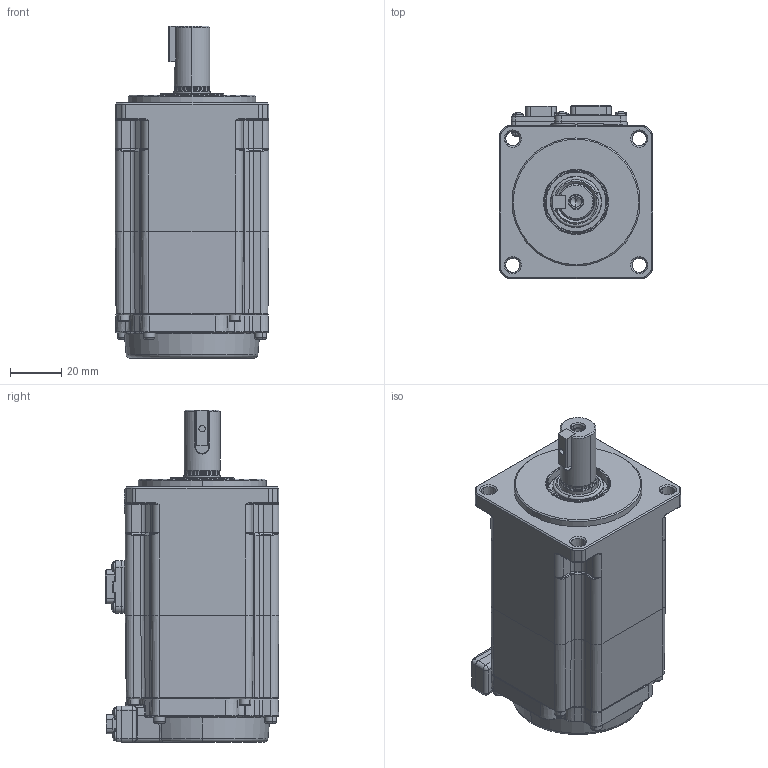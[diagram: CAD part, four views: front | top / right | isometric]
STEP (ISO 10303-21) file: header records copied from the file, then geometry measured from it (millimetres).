
FILE_DESCRIPTION (( 'STEP AP214' ), '1' );
FILE_NAME ('60-200W衄蚐猾衄秶雄ん(RSK1-H060A02B30E).STEP', '2024-09-06T09:02:30', ( '' ), ( '' ), 'SwSTEP 2.0', 'SolidWorks 2020', '' );
FILE_SCHEMA (( 'AUTOMOTIVE_DESIGN' ));
Length unit declared in the file: millimetre
Products named in the file (12): 60楊擘粣; 2142000002_儂褲禱矗_RSK1-H060A02B30S36; 3231000003_勾板螺丝型6pin连接器插座_GAMC3063; 3220000001_蚐猾_TC15x25x4(NBR); 3130000001_す瑩_B5x5x14(GBT1096-2003 湍れ瑩蹟謂M3); 60-200W衄蚐猾衄秶雄ん(RSK1-H060A02B30E); 3114000001_十字槽盘头自挤螺钉_M2x5(GBT6560-2014 锌镍合金 黑色); 苤萇儂晤鎢傷赽; 2174000002_綴傷裔禱矗_RSK1-H060A04B30E36; 3111000001_内六角圆柱头螺钉_M2.5x10(GBT70.1-2000 锌镍合金 黑色 耐落 12.9级）; 3111000002_内六角圆柱头螺钉_M2.5x40(GBT70.1-2000 锌镍合金 黑色 耐落 12.9级）; 2181000001_綴裔_RSK1-H060A04B30S36
Assembly tree (24 placements, depth 2):
  60-200W衄蚐猾衄秶雄ん(RSK1-H060A02B30E)
    2142000002_儂褲禱矗_RSK1-H060A02B30S36
    2174000002_綴傷裔禱矗_RSK1-H060A04B30E36
    2181000001_綴裔_RSK1-H060A04B30S36
    3231000003_勾板螺丝型6pin连接器插座_GAMC3063
    苤萇儂晤鎢傷赽
    3111000001_内六角圆柱头螺钉_M2.5x10(GBT70.1-2000 锌镍合金 黑色 耐落 12.9级）  x4
    3114000001_十字槽盘头自挤螺钉_M2x5(GBT6560-2014 锌镍合金 黑色)  x8
    3220000001_蚐猾_TC15x25x4(NBR)
    3130000001_す瑩_B5x5x14(GBT1096-2003 湍れ瑩蹟謂M3)
    60楊擘粣
    3111000002_内六角圆柱头螺钉_M2.5x40(GBT70.1-2000 锌镍合金 黑色 耐落 12.9级）  x4
Bounding box: 60 x 67.9 x 129.7 mm (x, y, z)
Volume: 262030.7 mm3; surface area: 64442.5 mm2
Topology: 28 solids, 28 shells, 3035 faces, 7735 edges, 4849 vertices
Faces by surface type: plane 1433, cylinder 684, bspline 307, cone 304, torus 266, sphere 41
Entity records: 99606 total; most frequent: CARTESIAN_POINT 27362, ORIENTED_EDGE 13638, DIRECTION 12470, EDGE_CURVE 6819, VERTEX_POINT 4299, AXIS2_PLACEMENT_3D 4272, VECTOR 3926, LINE 3926
